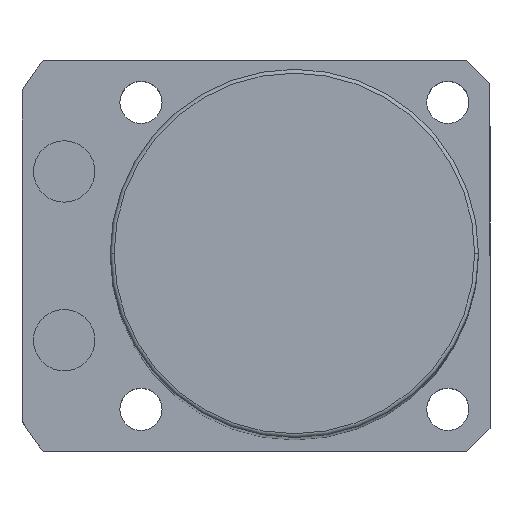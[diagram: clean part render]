
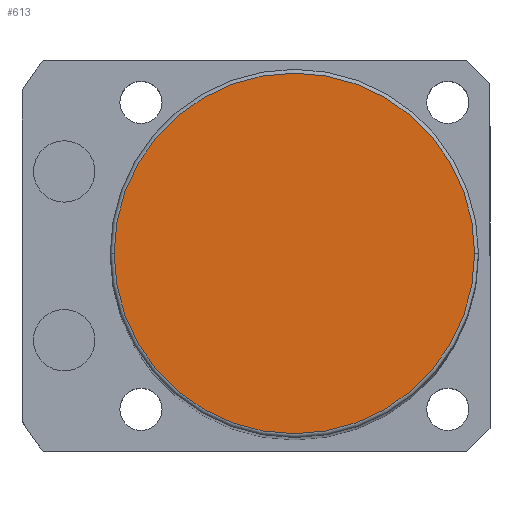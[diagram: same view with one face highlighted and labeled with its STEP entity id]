
A CAD part, top view. The second image highlights one B-rep face of the part: STEP entity #613.
In plain terms, the highlighted planar face has unit normal (0, 0, 1).
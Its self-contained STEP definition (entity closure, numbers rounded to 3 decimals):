
#14 = VERTEX_POINT ( 'NONE', #996 ) ;
#71 = CARTESIAN_POINT ( 'NONE',  ( 0., 0., 191. ) ) ;
#80 = AXIS2_PLACEMENT_3D ( 'NONE', #71, #593, #1714 ) ;
#204 = DIRECTION ( 'NONE',  ( 1., 0., 0. ) ) ;
#269 = EDGE_CURVE ( 'NONE', #14, #1961, #1249, .T. ) ;
#303 = CARTESIAN_POINT ( 'NONE',  ( -23.5, 0., 191. ) ) ;
#350 = EDGE_CURVE ( 'NONE', #1961, #14, #1127, .T. ) ;
#498 = DIRECTION ( 'NONE',  ( 0., 0., 1. ) ) ;
#593 = DIRECTION ( 'NONE',  ( 0., 0., 1. ) ) ;
#613 = ADVANCED_FACE ( 'NONE', ( #1919 ), #1427, .T. ) ;
#700 = CARTESIAN_POINT ( 'NONE',  ( 0., 0., 191. ) ) ;
#934 = ORIENTED_EDGE ( 'NONE', *, *, #269, .T. ) ;
#996 = CARTESIAN_POINT ( 'NONE',  ( 23.5, 0., 191. ) ) ;
#1077 = AXIS2_PLACEMENT_3D ( 'NONE', #700, #498, #1079 ) ;
#1079 = DIRECTION ( 'NONE',  ( 1., 0., 0. ) ) ;
#1127 = CIRCLE ( 'NONE', #80, 23.5 ) ;
#1249 = CIRCLE ( 'NONE', #1818, 23.5 ) ;
#1303 = DIRECTION ( 'NONE',  ( 0., 0., 1. ) ) ;
#1427 = PLANE ( 'NONE',  #1077 ) ;
#1500 = ORIENTED_EDGE ( 'NONE', *, *, #350, .T. ) ;
#1508 = CARTESIAN_POINT ( 'NONE',  ( 0., 0., 191. ) ) ;
#1689 = EDGE_LOOP ( 'NONE', ( #934, #1500 ) ) ;
#1714 = DIRECTION ( 'NONE',  ( 1., 0., 0. ) ) ;
#1818 = AXIS2_PLACEMENT_3D ( 'NONE', #1508, #1303, #204 ) ;
#1919 = FACE_OUTER_BOUND ( 'NONE', #1689, .T. ) ;
#1961 = VERTEX_POINT ( 'NONE', #303 ) ;
